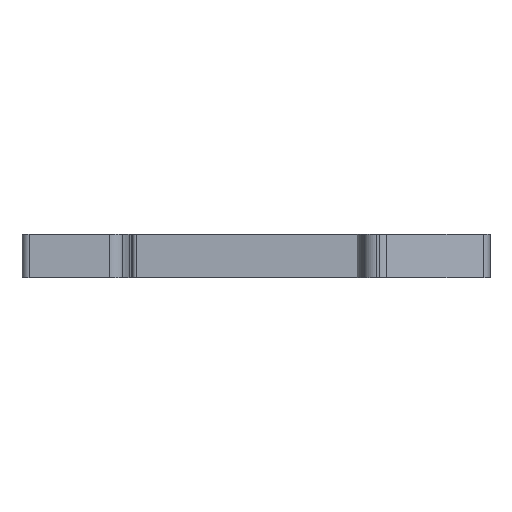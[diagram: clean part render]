
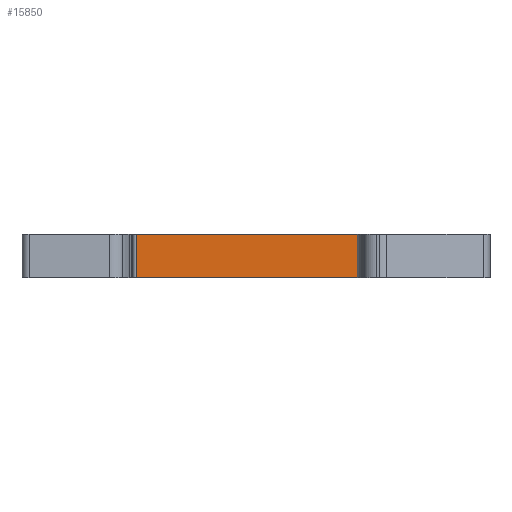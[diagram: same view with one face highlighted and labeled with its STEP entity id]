
A CAD part, front view. The second image highlights one B-rep face of the part: STEP entity #15850.
In plain terms, the highlighted planar face has unit normal (0, -1, 0).
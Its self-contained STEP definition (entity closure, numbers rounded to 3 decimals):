
#5820=CARTESIAN_POINT('',(-89.527,15.814,
-0.05));
#5830=DIRECTION('',(0.,0.,-1.));
#5840=VECTOR('',#5830,1.);
#5850=LINE('',#5820,#5840);
#5860=CARTESIAN_POINT('',(-89.527,15.814,
0.95));
#5870=VERTEX_POINT('',#5860);
#5880=CARTESIAN_POINT('',(-89.527,15.814,
-5.2));
#5890=VERTEX_POINT('',#5880);
#5900=EDGE_CURVE('',#5870,#5890,#5850,.T.);
#15550=CARTESIAN_POINT('',(-89.527,15.814,
-0.05));
#15560=DIRECTION('',(0.,-1.,0.));
#15570=DIRECTION('',(-1.,0.,0.));
#15580=AXIS2_PLACEMENT_3D('',#15550,#15560,#15570);
#15590=PLANE('',#15580);
#15600=ORIENTED_EDGE('',*,*,#5900,.T.);
#15610=CARTESIAN_POINT('',(-57.078,15.814,
0.95));
#15620=DIRECTION('',(1.,0.,0.));
#15630=VECTOR('',#15620,1.);
#15640=LINE('',#15610,#15630);
#15650=CARTESIAN_POINT('',(-57.079,15.814,
0.95));
#15660=VERTEX_POINT('',#15650);
#15670=EDGE_CURVE('',#5870,#15660,#15640,.T.);
#15680=ORIENTED_EDGE('',*,*,#15670,.F.);
#15690=CARTESIAN_POINT('',(-57.079,15.814,
0.95));
#15700=DIRECTION('',(0.,0.,-1.));
#15710=VECTOR('',#15700,1.);
#15720=LINE('',#15690,#15710);
#15730=CARTESIAN_POINT('',(-57.079,15.814,
-5.2));
#15740=VERTEX_POINT('',#15730);
#15750=EDGE_CURVE('',#15660,#15740,#15720,.T.);
#15760=ORIENTED_EDGE('',*,*,#15750,.F.);
#15770=CARTESIAN_POINT('',(-57.078,15.814,
-5.2));
#15780=DIRECTION('',(1.,0.,0.));
#15790=VECTOR('',#15780,1.);
#15800=LINE('',#15770,#15790);
#15810=EDGE_CURVE('',#5890,#15740,#15800,.T.);
#15820=ORIENTED_EDGE('',*,*,#15810,.T.);
#15830=EDGE_LOOP('',(#15820,#15760,#15680,#15600));
#15840=FACE_OUTER_BOUND('',#15830,.T.);
#15850=ADVANCED_FACE('',(#15840),#15590,.T.);
